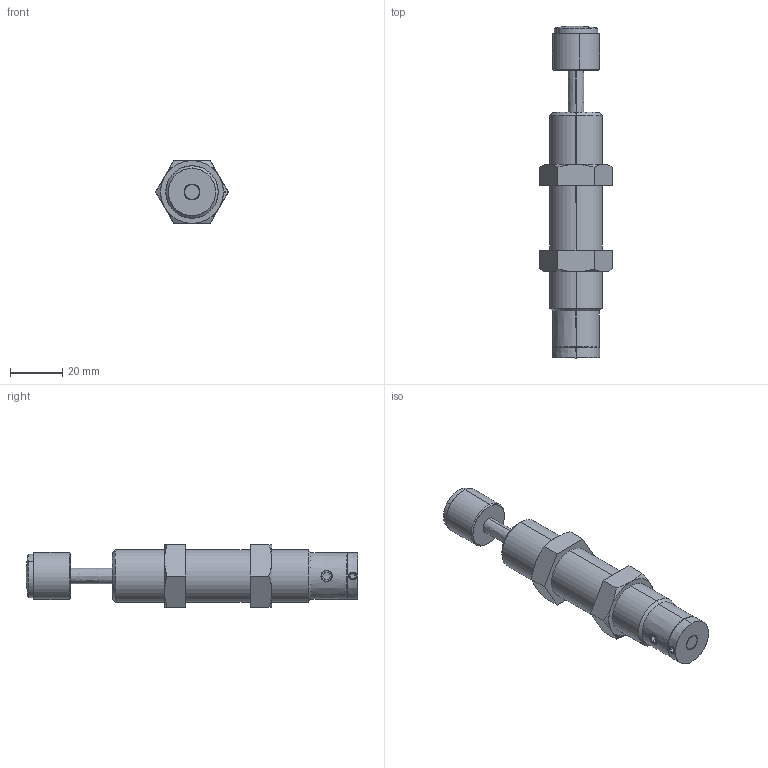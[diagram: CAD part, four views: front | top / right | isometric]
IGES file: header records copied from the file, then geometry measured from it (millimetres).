
Start section: SolidWorks IGES file using analytic representation for surfaces
Bounding box: 27.71 x 127 x 24 mm (x, y, z)
Surface area: 11210.2 mm2 (no closed solid volume)
Topology: 0 solids, 0 shells, 117 faces, 1696 edges, 1695 vertices
Faces by surface type: revolution 72, bspline 45
